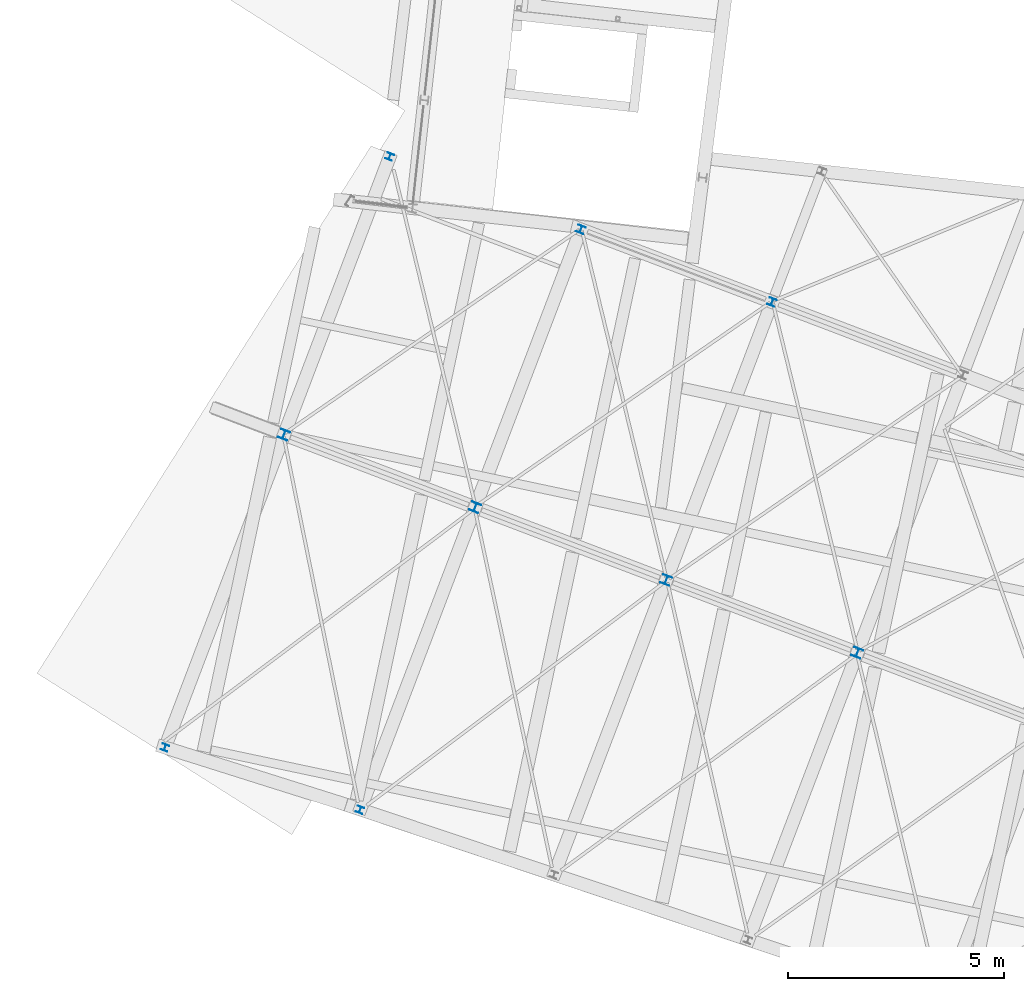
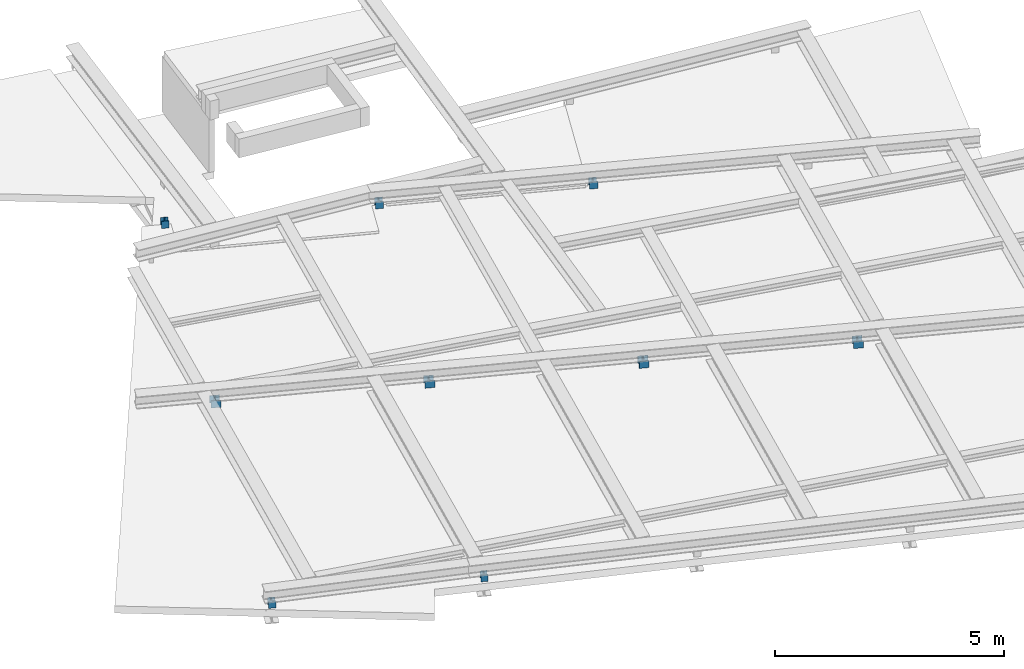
# One storey, part 3 of 21: 9 columns.
"""IFC2X3 building model written with IfcOpenShell, lengths in millimetres."""

from ifc_helpers import new_model, entity, si_unit, converted_unit, derived_unit, direction, frame, frame_2d, origin, origin_2d_with_axis, place, context, subcontext, project, spatial, i_section, extrude, source, transform, mapped, material, type_object, type_shapes, element, save


model = new_model("IFC2X3")

# Units and contexts
model_context = context("Model", 3, precision=0.01, world=origin(), true_north=direction((6.123233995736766e-17, 1.0)))
body_context = subcontext(model_context, "Body", "Model", "MODEL_VIEW")
ifc_project = project(units=[si_unit("LENGTHUNIT", "METRE", prefix="MILLI"), converted_unit("PLANEANGLEUNIT", "DEGREE", entity("IfcPlaneAngleMeasure", 0.017453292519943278), si_unit("PLANEANGLEUNIT", "RADIAN"), dimensions=[0, 0, 0, 0, 0, 0, 0]), si_unit("AREAUNIT", "SQUARE_METRE"), derived_unit("THERMALTRANSMITTANCEUNIT", [(si_unit("MASSUNIT", "GRAM", prefix="KILO"), 1), (si_unit("THERMODYNAMICTEMPERATUREUNIT", "KELVIN"), -1), (si_unit("TIMEUNIT", "SECOND"), -3)])], contexts=[model_context])

# Site, building, storey
site_placement = place(None, frame((-72937.88054949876, 11621.45624098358, 0.0), z_axis=(0.0, 0.0, 1.0), x_axis=(0.9346418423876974, -0.35559053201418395, 0.0)))
site = spatial("IfcSite", under=ifc_project, at=site_placement, Name="Default", CompositionType="ELEMENT")
building_placement = place(site_placement, origin())
building = spatial("IfcBuilding", under=site, at=building_placement, CompositionType="ELEMENT")
storey_placement = place(building_placement, frame((0.0, 0.0, 4250.0)))
storey = spatial("IfcBuildingStorey", under=building, at=storey_placement, Name="01 eerste verdieping", CompositionType="ELEMENT", Elevation=4250.0)

# Columns
ifc_material = material(Name="metaal_staal_generiek")
column_type_1 = type_object("IfcColumnType", Name="DIE16", PredefinedType="COLUMN", material=ifc_material)
shared_shape_1 = source(origin(), body_context, "Body", "SweptSolid", [
    extrude(i_section(OverallWidth=160.0, OverallDepth=152.0, WebThickness=5.999999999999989, FlangeThickness=9.000000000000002, FilletRadius=15.0, at=frame_2d((0.0, 7.105427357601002e-15), x_axis=(1.0, 0.0))), frame((0.0, 0.0, 4190.0), z_axis=(0.0, 0.0, 1.0), x_axis=(-1.0, 0.0, 0.0)), (0.0, 0.0, 1.0), 190.0000000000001),
])
type_shapes(column_type_1, [shared_shape_1])
for number, where in (
    (1, (19730.0, 14394.08467015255, -4250.0)),
    (2, (15000.0, 14135.5, -4250.0)),
    (3, (15000.0, 28760.0, -4250.0)),
):
    element("IfcColumn", number, at=place(storey_placement, frame(where)), inside=storey, type_object=column_type_1, material=ifc_material, Name="28.11_SCO_KolomHEA:DIE16", ObjectType="28.11_SCO_KolomHEA:DIE16", context=body_context, shape_type="MappedRepresentation", body=[
        mapped(shared_shape_1, transform((0.0, 0.0, 0.0), scale=1.0)),
    ])
column_type_2 = type_object("IfcColumnType", Name="DIE22", PredefinedType="COLUMN", material=ifc_material)
shared_shape_2 = source(origin(), body_context, "Body", "SweptSolid", [
    extrude(i_section(OverallWidth=219.99999999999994, OverallDepth=209.99999999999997, WebThickness=6.999999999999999, FlangeThickness=11.000000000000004, FilletRadius=18.0, at=origin_2d_with_axis()), frame((0.0, 0.0, 4190.0), z_axis=(0.0, 0.0, 1.0), x_axis=(-1.0, 0.0, 0.0)), (0.0, 0.0, 1.0), 189.99999999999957),
])
type_shapes(column_type_2, [shared_shape_2])
for number, where in (
    (4, (19730.0, 21880.0, -4250.0)),
    (5, (24460.0, 21880.0, -4250.0)),
    (6, (29190.0, 21880.0, -4250.0)),
):
    element("IfcColumn", number, at=place(storey_placement, frame(where)), inside=storey, type_object=column_type_2, material=ifc_material, Name="28.11_SCO_KolomHEA:DIE22", ObjectType="28.11_SCO_KolomHEA:DIE22", context=body_context, shape_type="MappedRepresentation", body=[
        mapped(shared_shape_2, transform((0.0, 0.0, 0.0), scale=1.0)),
    ])
column_type_3 = type_object("IfcColumnType", Name="DIE22", PredefinedType="COLUMN", material=ifc_material)
shared_shape_3 = source(origin(), body_context, "Body", "SweptSolid", [
    extrude(i_section(OverallWidth=219.9999999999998, OverallDepth=209.9999999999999, WebThickness=7.000000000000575, FlangeThickness=11.000000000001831, FilletRadius=18.0, at=frame_2d((5.4143356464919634e-12, -2.1671553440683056e-12), x_axis=(1.0, 0.0))), frame((15000.0, 21880.0, 4190.0), z_axis=(0.0, 0.0, 1.0), x_axis=(-1.0, 0.0, 0.0)), (0.0, 0.0, 1.0), 189.99999999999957),
])
type_shapes(column_type_3, [shared_shape_3])
column_placement = place(storey_placement, frame((0.0, 0.0, -4250.0)))
element("IfcColumn", 7, at=column_placement, inside=storey, type_object=column_type_3, material=ifc_material, Name="28.11_SCO_KolomHEA:DIE22", ObjectType="28.11_SCO_KolomHEA:DIE22", context=body_context, shape_type="MappedRepresentation", body=[
    mapped(shared_shape_3, transform((0.0, 0.0, 0.0), scale=1.0)),
])
column_type_4 = type_object("IfcColumnType", Name="DIE18", PredefinedType="COLUMN", material=ifc_material)
shared_shape_4 = source(origin(), body_context, "Body", "SweptSolid", [
    extrude(i_section(OverallWidth=180.0, OverallDepth=170.99999999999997, WebThickness=5.999999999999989, FlangeThickness=9.500000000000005, FilletRadius=15.0, at=origin_2d_with_axis()), frame((0.0, 0.0, 4190.0), z_axis=(0.0, 0.0, 1.0), x_axis=(-1.0, 0.0, 0.0)), (0.0, 0.0, 1.0), 190.0000000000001),
])
type_shapes(column_type_4, [shared_shape_4])
for number, where in (
    (8, (24460.0, 28760.0, -4250.0)),
    (9, (19730.0, 28760.0, -4250.0)),
):
    element("IfcColumn", number, at=place(storey_placement, frame(where)), inside=storey, type_object=column_type_4, material=ifc_material, Name="28.11_SCO_KolomHEA:DIE18", ObjectType="28.11_SCO_KolomHEA:DIE18", context=body_context, shape_type="MappedRepresentation", body=[
        mapped(shared_shape_4, transform((0.0, 0.0, 0.0), scale=1.0)),
    ])

save(model, "model.ifc")
